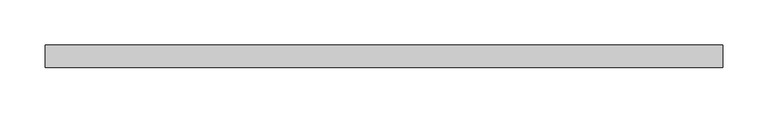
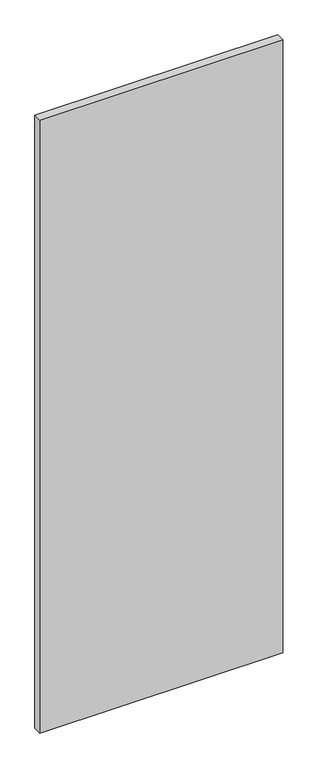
"""IFC4 building model written with IfcOpenShell, lengths in millimetres: plate geometry, Системная панель : С остеклением."""

from ifc_helpers import new_model, si_unit, origin, origin_with_axes, place, context, project, spatial, polyline, outline, extrude, source, transform, mapped, element, save


def plate_4466f97f(model_context):
    return source(origin(), model_context, "Body", "SweptSolid", [
        extrude(outline(polyline([(375.0, 24.5), (-375.0, 24.5), (-375.0, 49.5), (375.0, 49.5), (375.0, 24.5)])), origin_with_axes(), (0.0, 0.0, 1.0), 2000.0),
    ])


if __name__ == "__main__":
    model = new_model("IFC4")
    model_context = context("Model", 3, world=origin())
    ifc_project = project(units=[si_unit("LENGTHUNIT", "METRE", prefix="MILLI")], contexts=[model_context])
    site = spatial("IfcSite", under=ifc_project)
    building = spatial("IfcBuilding", under=site)
    placement = place(None, origin())
    plate_shape = plate_4466f97f(model_context)
    element("IfcPlate", 1, ObjectType="Системная панель : С остеклением", at=placement, inside=building, context=model_context, shape_type="MappedRepresentation", body=[
        mapped(plate_shape, transform((0.0, 0.0, 0.0), x_axis=(1.0, 0.0, 0.0), y_axis=(0.0, 1.0, 0.0), z_axis=(0.0, 0.0, 1.0))),
    ])
    save(model, "model.ifc")
